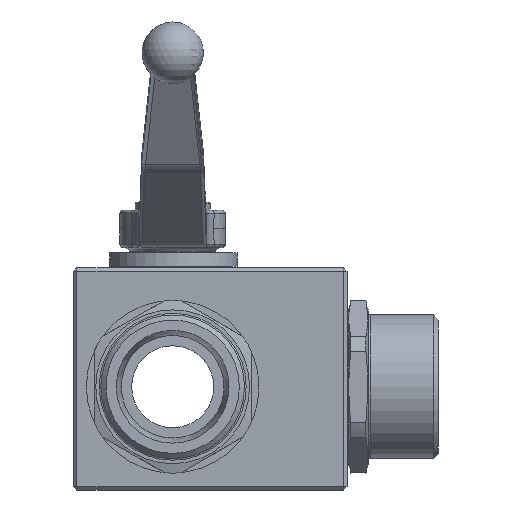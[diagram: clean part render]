
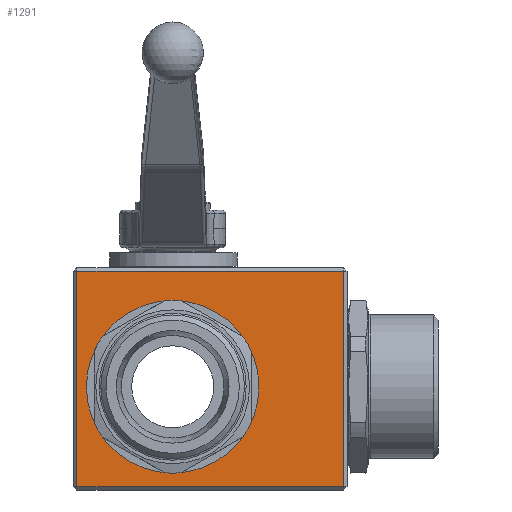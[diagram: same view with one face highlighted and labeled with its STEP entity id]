
A CAD part, front view. The second image highlights one B-rep face of the part: STEP entity #1291.
In plain terms, the highlighted planar face has unit normal (0, -1, 0).
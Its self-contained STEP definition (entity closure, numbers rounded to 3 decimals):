
#1291 = ADVANCED_FACE( '', ( #2542, #2543 ), #2544, .F. );
#2542 = FACE_OUTER_BOUND( '', #4577, .T. );
#2543 = FACE_BOUND( '', #4578, .T. );
#2544 = PLANE( '', #4579 );
#4577 = EDGE_LOOP( '', ( #7460, #7461, #7462, #7463 ) );
#4578 = EDGE_LOOP( '', ( #7464 ) );
#4579 = AXIS2_PLACEMENT_3D( '', #7465, #7466, #7467 );
#7460 = ORIENTED_EDGE( '', *, *, #8505, .T. );
#7461 = ORIENTED_EDGE( '', *, *, #8171, .T. );
#7462 = ORIENTED_EDGE( '', *, *, #8370, .T. );
#7463 = ORIENTED_EDGE( '', *, *, #8280, .T. );
#7464 = ORIENTED_EDGE( '', *, *, #8061, .F. );
#7465 = CARTESIAN_POINT( '', ( -29., -32.5, 34.8 ) );
#7466 = DIRECTION( '', ( 0., 1., 0. ) );
#7467 = DIRECTION( '', ( 0., 0., 1. ) );
#8061 = EDGE_CURVE( '', #9542, #9542, #9543, .T. );
#8171 = EDGE_CURVE( '', #9704, #9709, #9711, .T. );
#8280 = EDGE_CURVE( '', #9871, #9869, #9872, .T. );
#8370 = EDGE_CURVE( '', #9709, #9871, #9995, .T. );
#8505 = EDGE_CURVE( '', #9869, #9704, #10171, .T. );
#9542 = VERTEX_POINT( '', #12246 );
#9543 = CIRCLE( '', #12247, 25.25 );
#9704 = VERTEX_POINT( '', #12659 );
#9709 = VERTEX_POINT( '', #12666 );
#9711 = LINE( '', #12669, #12670 );
#9869 = VERTEX_POINT( '', #13014 );
#9871 = VERTEX_POINT( '', #13017 );
#9872 = LINE( '', #13018, #13019 );
#9995 = LINE( '', #13300, #13301 );
#10171 = LINE( '', #13949, #13950 );
#12246 = CARTESIAN_POINT( '', ( 25.25, -32.5, 0. ) );
#12247 = AXIS2_PLACEMENT_3D( '', #15335, #15336, #15337 );
#12659 = CARTESIAN_POINT( '', ( -28., -32.5, 33.8 ) );
#12666 = CARTESIAN_POINT( '', ( -28., -32.5, -29.2 ) );
#12669 = CARTESIAN_POINT( '', ( -28., -32.5, 34.8 ) );
#12670 = VECTOR( '', #15450, 1000. );
#13014 = CARTESIAN_POINT( '', ( 50., -32.5, 33.8 ) );
#13017 = CARTESIAN_POINT( '', ( 50., -32.5, -29.2 ) );
#13018 = CARTESIAN_POINT( '', ( 50., -32.5, 34.8 ) );
#13019 = VECTOR( '', #15580, 1000. );
#13300 = CARTESIAN_POINT( '', ( 51., -32.5, -29.2 ) );
#13301 = VECTOR( '', #15673, 1000. );
#13949 = CARTESIAN_POINT( '', ( -29., -32.5, 33.8 ) );
#13950 = VECTOR( '', #15815, 1000. );
#15335 = CARTESIAN_POINT( '', ( 0., -32.5, 0. ) );
#15336 = DIRECTION( '', ( 0., -1., 0. ) );
#15337 = DIRECTION( '', ( 1., 0., 0. ) );
#15450 = DIRECTION( '', ( 0., 0., -1. ) );
#15580 = DIRECTION( '', ( 0., 0., 1. ) );
#15673 = DIRECTION( '', ( 1., 0., 0. ) );
#15815 = DIRECTION( '', ( -1., 0., 0. ) );
